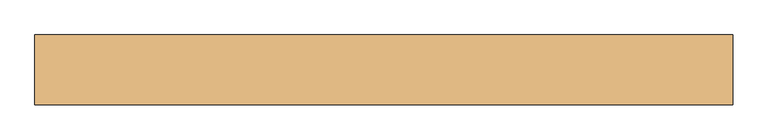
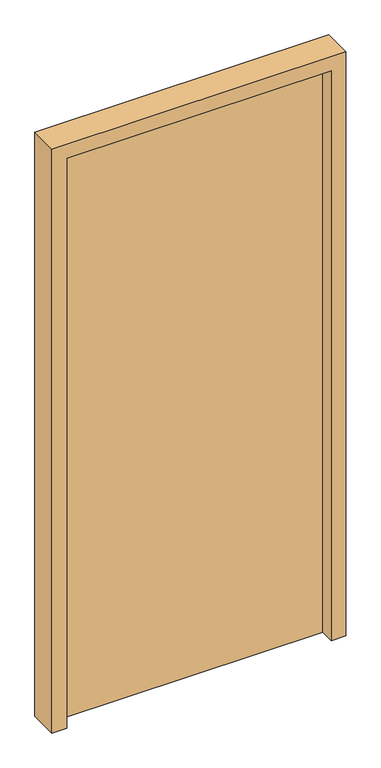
"""IFC4 building model written with IfcOpenShell, lengths in millimetres: door geometry, (Dr)_ДУ(распашная)_1Ст_Прямоугольная : (Вн)_ДГ(1.00х2.1(h))."""

from ifc_helpers import new_model, si_unit, frame, origin, origin_with_axes, place, context, project, spatial, polyline, outline, extrude, source, transform, mapped, element, save


def door_4bc70aad(model_context):
    return source(origin(), model_context, "Body", "SweptSolid", [
        extrude(outline(polyline([(450.0, 50.0), (450.0, 0.0), (-450.0, 0.0), (-450.0, 50.0), (450.0, 50.0)])), origin_with_axes(), (0.0, 0.0, 1.0), 2050.0),
        extrude(outline(polyline([(0.0, -500.0), (0.0, -450.0), (2050.0, -450.0), (2050.0, 450.0), (0.0, 450.0), (0.0, 500.0), (2100.0, 500.0), (2100.0, -500.0), (0.0, -500.0)])), frame((0.0, -50.0, 0.0), z_axis=(0.0, 1.0, 0.0), x_axis=(0.0, 0.0, 1.0)), (0.0, 0.0, 1.0), 100.0),
    ])


if __name__ == "__main__":
    model = new_model("IFC4")
    model_context = context("Model", 3, world=origin())
    ifc_project = project(units=[si_unit("LENGTHUNIT", "METRE", prefix="MILLI")], contexts=[model_context])
    site = spatial("IfcSite", under=ifc_project)
    building = spatial("IfcBuilding", under=site)
    placement = place(None, origin())
    door_shape = door_4bc70aad(model_context)
    element("IfcDoor", 1, ObjectType="(Dr)_ДУ(распашная)_1Ст_Прямоугольная : (Вн)_ДГ(1.00х2.1(h))", at=placement, inside=building, context=model_context, shape_type="MappedRepresentation", body=[
        mapped(door_shape, transform((0.0, 0.0, 0.0), x_axis=(1.0, 0.0, 0.0), y_axis=(0.0, 1.0, 0.0), z_axis=(0.0, 0.0, 1.0))),
    ])
    save(model, "model.ifc")
